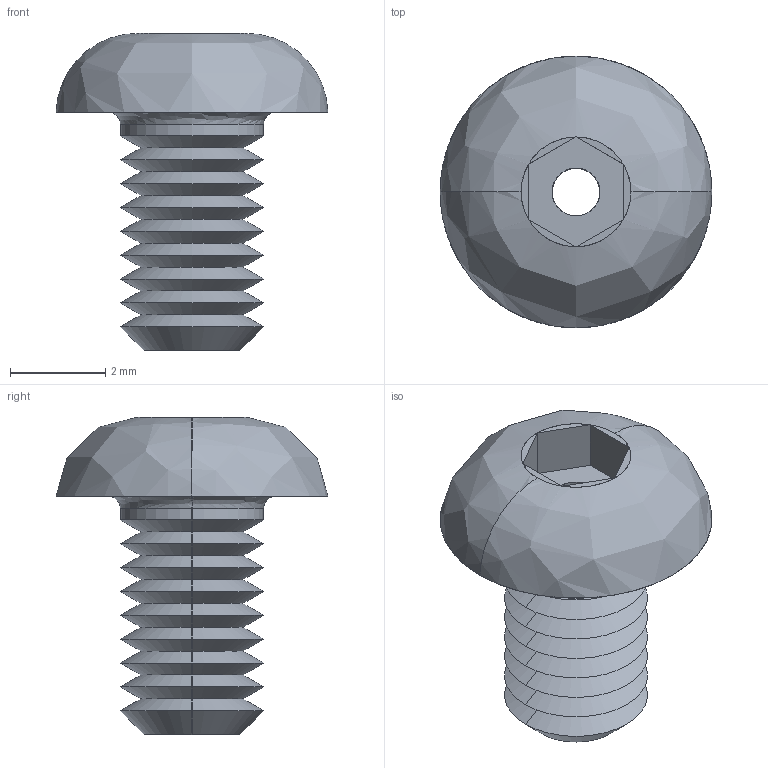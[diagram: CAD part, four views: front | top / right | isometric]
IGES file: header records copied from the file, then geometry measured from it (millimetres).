
Start section: SolidWorks IGES file using analytic representation for surfaces
Global section: file name: C:\Users\liam_\OneDrive\Documents\WORK\Work for WixRoyd\Job Files\J-00019 - Matt Davis CAD Checking\04. CAD Drawings\automotion20190605\P0094_v2\P0094_v2_20190712_IGES\P0094.030-005-A2.igs; native system: SolidWorks 2017; preprocessor: SolidWorks 2017; author: liam_; date: 190712.175102; units: millimetre
Bounding box: 5.7 x 5.7 x 6.65 mm (x, y, z)
Surface area: 159.4 mm2 (no closed solid volume)
Topology: 0 solids, 0 shells, 57 faces, 386 edges, 386 vertices
Faces by surface type: revolution 38, bspline 19
